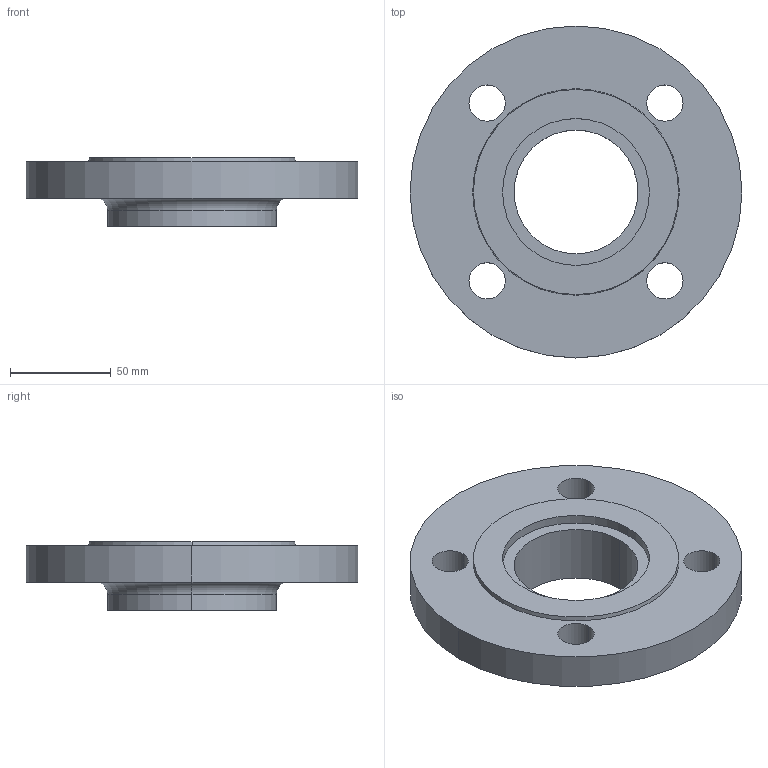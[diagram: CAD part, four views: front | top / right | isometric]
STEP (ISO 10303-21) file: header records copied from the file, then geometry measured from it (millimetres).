
FILE_DESCRIPTION (( 'STEP AP214' ), '1' );
FILE_NAME ('PN40 DN50 Type 12 - Type G Face.STEP', '2018-12-30T04:32:45', ( '' ), ( '' ), 'SwSTEP 2.0', 'SolidWorks 2019', '' );
FILE_SCHEMA (( 'AUTOMOTIVE_DESIGN' ));
Length unit declared in the file: millimetre
Products named in the file (1): PN40 DN50 Type 12 - Type G Face
Bounding box: 165 x 165 x 34 mm (x, y, z)
Volume: 356240.9 mm3; surface area: 58492.3 mm2
Topology: 1 solids, 1 shells, 25 faces, 58 edges, 38 vertices
Faces by surface type: cylinder 16, plane 5, torus 2, cone 2
Entity records: 790 total; most frequent: DIRECTION 150, CARTESIAN_POINT 122, ORIENTED_EDGE 116, AXIS2_PLACEMENT_3D 66, EDGE_CURVE 58, CIRCLE 40, VERTEX_POINT 38, EDGE_LOOP 38
